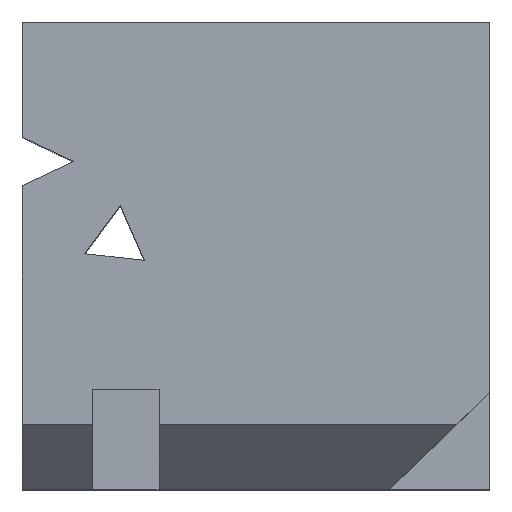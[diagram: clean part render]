
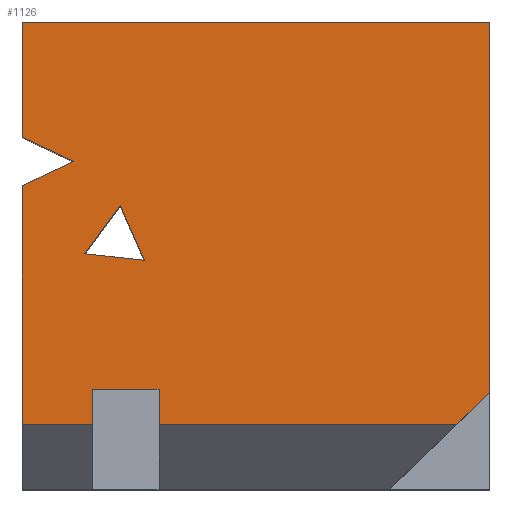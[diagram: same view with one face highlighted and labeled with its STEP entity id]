
A CAD part, top view. The second image highlights one B-rep face of the part: STEP entity #1126.
In plain terms, the highlighted planar face has unit normal (0, 0, 1).
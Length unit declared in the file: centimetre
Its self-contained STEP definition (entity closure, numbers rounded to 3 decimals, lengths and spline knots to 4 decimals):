
#9 = CARTESIAN_POINT ( 'NONE',  ( 0., 1000., 1000. ) ) ;
#10 = EDGE_CURVE ( 'NONE', #1094, #571, #188, .T. ) ;
#22 = DIRECTION ( 'NONE',  ( -0.994, 0.109, 0. ) ) ;
#25 = DIRECTION ( 'NONE',  ( -1., 0., 0. ) ) ;
#27 = CARTESIAN_POINT ( 'NONE',  ( 0., 649.8113, 1000. ) ) ;
#34 = VERTEX_POINT ( 'NONE', #925 ) ;
#54 = LINE ( 'NONE', #295, #330 ) ;
#64 = CARTESIAN_POINT ( 'NONE',  ( 0., 0., 1000. ) ) ;
#74 = EDGE_CURVE ( 'NONE', #282, #213, #519, .T. ) ;
#76 = VERTEX_POINT ( 'NONE', #1090 ) ;
#78 = DIRECTION ( 'NONE',  ( 0.403, -0.915, 0. ) ) ;
#85 = LINE ( 'NONE', #562, #853 ) ;
#87 = CARTESIAN_POINT ( 'NONE',  ( 0., 1000., 1000. ) ) ;
#116 = ORIENTED_EDGE ( 'NONE', *, *, #309, .T. ) ;
#135 = VECTOR ( 'NONE', #78, 100. ) ;
#138 = ORIENTED_EDGE ( 'NONE', *, *, #746, .F. ) ;
#140 = LINE ( 'NONE', #500, #1136 ) ;
#144 = EDGE_LOOP ( 'NONE', ( #300, #723, #871 ) ) ;
#149 = CARTESIAN_POINT ( 'NONE',  ( 0., 649.8113, 1000. ) ) ;
#177 = ORIENTED_EDGE ( 'NONE', *, *, #1029, .T. ) ;
#178 = FACE_BOUND ( 'NONE', #144, .T. ) ;
#188 = LINE ( 'NONE', #9, #941 ) ;
#199 = EDGE_CURVE ( 'NONE', #571, #76, #721, .T. ) ;
#213 = VERTEX_POINT ( 'NONE', #338 ) ;
#259 = LINE ( 'NONE', #334, #1056 ) ;
#282 = VERTEX_POINT ( 'NONE', #442 ) ;
#285 = VECTOR ( 'NONE', #1162, 100. ) ;
#291 = ORIENTED_EDGE ( 'NONE', *, *, #10, .T. ) ;
#295 = CARTESIAN_POINT ( 'NONE',  ( 1000., 206.6168, 1000. ) ) ;
#300 = ORIENTED_EDGE ( 'NONE', *, *, #1135, .T. ) ;
#307 = LINE ( 'NONE', #675, #473 ) ;
#309 = EDGE_CURVE ( 'NONE', #881, #687, #1197, .T. ) ;
#330 = VECTOR ( 'NONE', #471, 100. ) ;
#331 = CARTESIAN_POINT ( 'NONE',  ( 0., 753.5541, 1000. ) ) ;
#334 = CARTESIAN_POINT ( 'NONE',  ( 0., 1000., 1000. ) ) ;
#338 = CARTESIAN_POINT ( 'NONE',  ( 1000., 1000., 1000. ) ) ;
#346 = CARTESIAN_POINT ( 'NONE',  ( 209.5159, 607.9849, 1000. ) ) ;
#399 = EDGE_LOOP ( 'NONE', ( #612, #713, #493, #177, #138, #979, #1044, #291, #1033, #1024, #552, #116 ) ) ;
#401 = EDGE_CURVE ( 'NONE', #676, #678, #307, .T. ) ;
#418 = DIRECTION ( 'NONE',  ( 0., 0., 1. ) ) ;
#433 = CARTESIAN_POINT ( 'NONE',  ( 0., 1000., 1000. ) ) ;
#436 = DIRECTION ( 'NONE',  ( 0., 1., 0. ) ) ;
#439 = DIRECTION ( 'NONE',  ( 0., -1., 0. ) ) ;
#442 = CARTESIAN_POINT ( 'NONE',  ( 1000., 206.6168, 1000. ) ) ;
#459 = CARTESIAN_POINT ( 'NONE',  ( 0., 138.4521, 1000. ) ) ;
#462 = DIRECTION ( 'NONE',  ( 0., -1., 0. ) ) ;
#466 = CARTESIAN_POINT ( 'NONE',  ( 133.4022, 504.1605, 1000. ) ) ;
#471 = DIRECTION ( 'NONE',  ( -0.721, -0.693, 0. ) ) ;
#473 = VECTOR ( 'NONE', #25, 100. ) ;
#493 = ORIENTED_EDGE ( 'NONE', *, *, #726, .F. ) ;
#500 = CARTESIAN_POINT ( 'NONE',  ( 1000., 138.4521, 1000. ) ) ;
#515 = VERTEX_POINT ( 'NONE', #885 ) ;
#519 = LINE ( 'NONE', #702, #638 ) ;
#537 = VECTOR ( 'NONE', #1176, 100. ) ;
#543 = PLANE ( 'NONE',  #701 ) ;
#552 = ORIENTED_EDGE ( 'NONE', *, *, #1110, .T. ) ;
#555 = EDGE_CURVE ( 'NONE', #76, #765, #1075, .T. ) ;
#556 = VECTOR ( 'NONE', #439, 100. ) ;
#562 = CARTESIAN_POINT ( 'NONE',  ( 149.8869, 0., 1000. ) ) ;
#565 = CARTESIAN_POINT ( 'NONE',  ( 133.4022, 504.1605, 1000. ) ) ;
#571 = VERTEX_POINT ( 'NONE', #331 ) ;
#578 = VECTOR ( 'NONE', #729, 100. ) ;
#582 = CARTESIAN_POINT ( 'NONE',  ( 292.4601, 0., 1000. ) ) ;
#606 = CARTESIAN_POINT ( 'NONE',  ( 292.4601, 138.4521, 1000. ) ) ;
#612 = ORIENTED_EDGE ( 'NONE', *, *, #1001, .F. ) ;
#614 = FACE_OUTER_BOUND ( 'NONE', #399, .T. ) ;
#638 = VECTOR ( 'NONE', #436, 100. ) ;
#641 = DIRECTION ( 'NONE',  ( 0., -1., 0. ) ) ;
#661 = CARTESIAN_POINT ( 'NONE',  ( 1000., 138.4521, 1000. ) ) ;
#675 = CARTESIAN_POINT ( 'NONE',  ( 149.8869, 213.947, 1000. ) ) ;
#676 = VERTEX_POINT ( 'NONE', #1140 ) ;
#678 = VERTEX_POINT ( 'NONE', #948 ) ;
#687 = VERTEX_POINT ( 'NONE', #780 ) ;
#701 = AXIS2_PLACEMENT_3D ( 'NONE', #64, #418, #796 ) ;
#702 = CARTESIAN_POINT ( 'NONE',  ( 1000., 1000., 1000. ) ) ;
#713 = ORIENTED_EDGE ( 'NONE', *, *, #401, .F. ) ;
#717 = VECTOR ( 'NONE', #719, 100. ) ;
#718 = DIRECTION ( 'NONE',  ( -1., 0., 0. ) ) ;
#719 = DIRECTION ( 'NONE',  ( -0.905, -0.426, 0. ) ) ;
#721 = LINE ( 'NONE', #886, #537 ) ;
#723 = ORIENTED_EDGE ( 'NONE', *, *, #1121, .T. ) ;
#726 = EDGE_CURVE ( 'NONE', #1047, #676, #963, .T. ) ;
#729 = DIRECTION ( 'NONE',  ( 0.591, 0.806, 0. ) ) ;
#746 = EDGE_CURVE ( 'NONE', #282, #34, #54, .T. ) ;
#765 = VERTEX_POINT ( 'NONE', #27 ) ;
#780 = CARTESIAN_POINT ( 'NONE',  ( 149.8869, 138.4521, 1000. ) ) ;
#796 = DIRECTION ( 'NONE',  ( 1., 0., 0. ) ) ;
#846 = VERTEX_POINT ( 'NONE', #565 ) ;
#853 = VECTOR ( 'NONE', #462, 100. ) ;
#871 = ORIENTED_EDGE ( 'NONE', *, *, #1063, .T. ) ;
#877 = DIRECTION ( 'NONE',  ( 1., 0., 0. ) ) ;
#881 = VERTEX_POINT ( 'NONE', #459 ) ;
#885 = CARTESIAN_POINT ( 'NONE',  ( 209.5159, 607.9849, 1000. ) ) ;
#886 = CARTESIAN_POINT ( 'NONE',  ( 110.1166, 701.6827, 1000. ) ) ;
#899 = VECTOR ( 'NONE', #1113, 100. ) ;
#901 = LINE ( 'NONE', #87, #556 ) ;
#925 = CARTESIAN_POINT ( 'NONE',  ( 929.0617, 138.4521, 1000. ) ) ;
#929 = LINE ( 'NONE', #466, #1153 ) ;
#941 = VECTOR ( 'NONE', #641, 100. ) ;
#948 = CARTESIAN_POINT ( 'NONE',  ( 149.8869, 213.947, 1000. ) ) ;
#963 = LINE ( 'NONE', #582, #285 ) ;
#979 = ORIENTED_EDGE ( 'NONE', *, *, #74, .T. ) ;
#1001 = EDGE_CURVE ( 'NONE', #678, #687, #85, .T. ) ;
#1024 = ORIENTED_EDGE ( 'NONE', *, *, #555, .T. ) ;
#1029 = EDGE_CURVE ( 'NONE', #1047, #34, #140, .T. ) ;
#1033 = ORIENTED_EDGE ( 'NONE', *, *, #199, .T. ) ;
#1044 = ORIENTED_EDGE ( 'NONE', *, *, #1071, .T. ) ;
#1047 = VERTEX_POINT ( 'NONE', #606 ) ;
#1056 = VECTOR ( 'NONE', #718, 100. ) ;
#1063 = EDGE_CURVE ( 'NONE', #515, #1067, #1180, .T. ) ;
#1067 = VERTEX_POINT ( 'NONE', #1186 ) ;
#1071 = EDGE_CURVE ( 'NONE', #213, #1094, #259, .T. ) ;
#1075 = LINE ( 'NONE', #149, #717 ) ;
#1090 = CARTESIAN_POINT ( 'NONE',  ( 110.1166, 701.6827, 1000. ) ) ;
#1094 = VERTEX_POINT ( 'NONE', #433 ) ;
#1110 = EDGE_CURVE ( 'NONE', #765, #881, #901, .T. ) ;
#1112 = CARTESIAN_POINT ( 'NONE',  ( 261.3737, 490.1563, 1000. ) ) ;
#1113 = DIRECTION ( 'NONE',  ( 1., 0., 0. ) ) ;
#1121 = EDGE_CURVE ( 'NONE', #846, #515, #1195, .T. ) ;
#1126 = ADVANCED_FACE ( 'NONE', ( #614, #178 ), #543, .T. ) ;
#1135 = EDGE_CURVE ( 'NONE', #1067, #846, #929, .T. ) ;
#1136 = VECTOR ( 'NONE', #877, 100. ) ;
#1140 = CARTESIAN_POINT ( 'NONE',  ( 292.4601, 213.947, 1000. ) ) ;
#1153 = VECTOR ( 'NONE', #22, 100. ) ;
#1162 = DIRECTION ( 'NONE',  ( 0., 1., 0. ) ) ;
#1176 = DIRECTION ( 'NONE',  ( 0.905, -0.426, 0. ) ) ;
#1180 = LINE ( 'NONE', #1112, #135 ) ;
#1186 = CARTESIAN_POINT ( 'NONE',  ( 261.3737, 490.1563, 1000. ) ) ;
#1195 = LINE ( 'NONE', #346, #578 ) ;
#1197 = LINE ( 'NONE', #661, #899 ) ;
